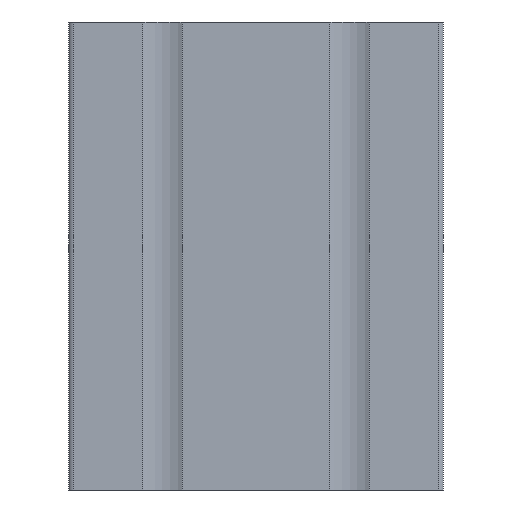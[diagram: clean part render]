
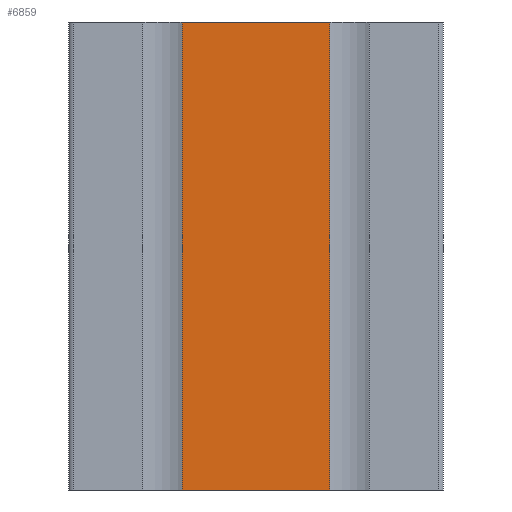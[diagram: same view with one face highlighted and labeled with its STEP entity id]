
A CAD part, front view. The second image highlights one B-rep face of the part: STEP entity #6859.
In plain terms, the highlighted planar face has unit normal (0, -1, 0).
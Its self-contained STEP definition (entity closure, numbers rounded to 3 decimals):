
#101 = CARTESIAN_POINT ( 'NONE',  ( 15.8, -20., -50. ) ) ;
#390 = DIRECTION ( 'NONE',  ( 0., 1., 0. ) ) ;
#565 = ORIENTED_EDGE ( 'NONE', *, *, #914, .F. ) ;
#788 = EDGE_CURVE ( 'NONE', #3019, #2979, #7082, .T. ) ;
#914 = EDGE_CURVE ( 'NONE', #2979, #6407, #2626, .T. ) ;
#1002 = CARTESIAN_POINT ( 'NONE',  ( 15.8, -20., 50. ) ) ;
#2451 = VECTOR ( 'NONE', #5369, 1000. ) ;
#2626 = LINE ( 'NONE', #3317, #4738 ) ;
#2979 = VERTEX_POINT ( 'NONE', #7828 ) ;
#3019 = VERTEX_POINT ( 'NONE', #7567 ) ;
#3083 = DIRECTION ( 'NONE',  ( 0., 0., -1. ) ) ;
#3147 = DIRECTION ( 'NONE',  ( 0., 0., 1. ) ) ;
#3317 = CARTESIAN_POINT ( 'NONE',  ( 15.8, -20., 50. ) ) ;
#3581 = VECTOR ( 'NONE', #6432, 1000. ) ;
#3687 = CARTESIAN_POINT ( 'NONE',  ( -15.8, -20., 50. ) ) ;
#3731 = LINE ( 'NONE', #3687, #6595 ) ;
#3797 = CARTESIAN_POINT ( 'NONE',  ( 15.8, -20., 50. ) ) ;
#3814 = VERTEX_POINT ( 'NONE', #7304 ) ;
#4450 = FACE_OUTER_BOUND ( 'NONE', #7291, .T. ) ;
#4738 = VECTOR ( 'NONE', #7284, 1000. ) ;
#4820 = CARTESIAN_POINT ( 'NONE',  ( 15.8, -20., -50. ) ) ;
#4852 = EDGE_CURVE ( 'NONE', #3019, #3814, #3731, .T. ) ;
#5113 = EDGE_CURVE ( 'NONE', #3814, #6407, #6494, .T. ) ;
#5193 = ORIENTED_EDGE ( 'NONE', *, *, #4852, .T. ) ;
#5369 = DIRECTION ( 'NONE',  ( 1., 0., 0. ) ) ;
#6407 = VERTEX_POINT ( 'NONE', #4820 ) ;
#6432 = DIRECTION ( 'NONE',  ( 1., 0., 0. ) ) ;
#6434 = PLANE ( 'NONE',  #7478 ) ;
#6494 = LINE ( 'NONE', #101, #2451 ) ;
#6595 = VECTOR ( 'NONE', #3083, 1000. ) ;
#6859 = ADVANCED_FACE ( 'NONE', ( #4450 ), #6434, .F. ) ;
#7082 = LINE ( 'NONE', #3797, #3581 ) ;
#7284 = DIRECTION ( 'NONE',  ( 0., 0., -1. ) ) ;
#7291 = EDGE_LOOP ( 'NONE', ( #7324, #565, #7979, #5193 ) ) ;
#7304 = CARTESIAN_POINT ( 'NONE',  ( -15.8, -20., -50. ) ) ;
#7324 = ORIENTED_EDGE ( 'NONE', *, *, #5113, .T. ) ;
#7478 = AXIS2_PLACEMENT_3D ( 'NONE', #1002, #390, #3147 ) ;
#7567 = CARTESIAN_POINT ( 'NONE',  ( -15.8, -20., 50. ) ) ;
#7828 = CARTESIAN_POINT ( 'NONE',  ( 15.8, -20., 50. ) ) ;
#7979 = ORIENTED_EDGE ( 'NONE', *, *, #788, .F. ) ;
